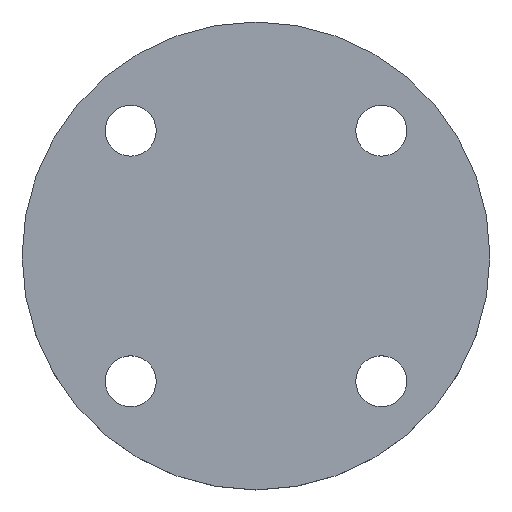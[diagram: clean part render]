
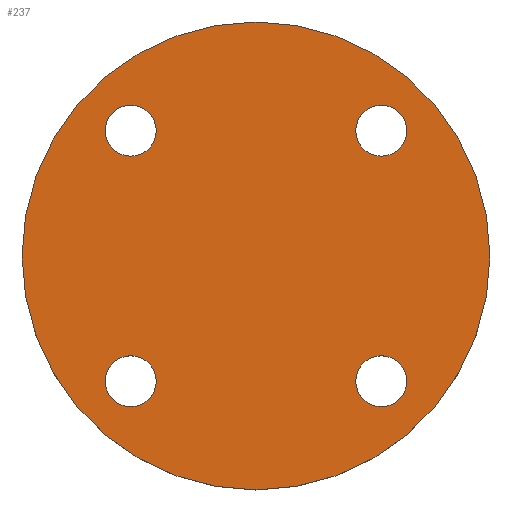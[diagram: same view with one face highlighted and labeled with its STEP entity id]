
A CAD part, top view. The second image highlights one B-rep face of the part: STEP entity #237.
In plain terms, the highlighted planar face has unit normal (0, 0, 1).
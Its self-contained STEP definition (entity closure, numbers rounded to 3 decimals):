
#4 = AXIS2_PLACEMENT_3D ( 'NONE', #511, #512, #513 ) ;
#9 = CIRCLE ( 'NONE', #442, 9. ) ;
#20 = AXIS2_PLACEMENT_3D ( 'NONE', #43, #119, #334 ) ;
#33 = CIRCLE ( 'NONE', #428, 9. ) ;
#41 = CIRCLE ( 'NONE', #60, 9. ) ;
#43 = CARTESIAN_POINT ( 'NONE',  ( 44.194, 44.194, 0. ) ) ;
#60 = AXIS2_PLACEMENT_3D ( 'NONE', #106, #183, #77 ) ;
#70 = DIRECTION ( 'NONE',  ( 0., 0., -1. ) ) ;
#77 = DIRECTION ( 'NONE',  ( -1., 0., 0. ) ) ;
#87 = CARTESIAN_POINT ( 'NONE',  ( -44.194, 44.194, 0. ) ) ;
#106 = CARTESIAN_POINT ( 'NONE',  ( -44.194, 44.194, 0. ) ) ;
#113 = CIRCLE ( 'NONE', #4, 9. ) ;
#115 = CIRCLE ( 'NONE', #20, 9. ) ;
#118 = AXIS2_PLACEMENT_3D ( 'NONE', #129, #130, #131 ) ;
#119 = DIRECTION ( 'NONE',  ( 0., 0., -1. ) ) ;
#122 = EDGE_CURVE ( 'NONE', #375, #262, #113, .T. ) ;
#126 = CARTESIAN_POINT ( 'NONE',  ( 0., 0., 0. ) ) ;
#127 = DIRECTION ( 'NONE',  ( 0., 0., 1. ) ) ;
#128 = DIRECTION ( 'NONE',  ( 1., 0., 0. ) ) ;
#129 = CARTESIAN_POINT ( 'NONE',  ( 44.194, -44.194, 0. ) ) ;
#130 = DIRECTION ( 'NONE',  ( 0., 0., -1. ) ) ;
#131 = DIRECTION ( 'NONE',  ( -1., 0., 0. ) ) ;
#143 = CARTESIAN_POINT ( 'NONE',  ( -44.194, -44.194, 0. ) ) ;
#150 = DIRECTION ( 'NONE',  ( 0., 0., -1. ) ) ;
#152 = DIRECTION ( 'NONE',  ( -1., 0., 0. ) ) ;
#159 = CIRCLE ( 'NONE', #118, 9. ) ;
#163 = DIRECTION ( 'NONE',  ( 0., 0., -1. ) ) ;
#165 = DIRECTION ( 'NONE',  ( -1., 0., 0. ) ) ;
#166 = DIRECTION ( 'NONE',  ( -1., 0., 0. ) ) ;
#169 = CARTESIAN_POINT ( 'NONE',  ( -44.194, -44.194, 0. ) ) ;
#176 = CIRCLE ( 'NONE', #203, 82.5 ) ;
#183 = DIRECTION ( 'NONE',  ( 0., 0., -1. ) ) ;
#185 = EDGE_CURVE ( 'NONE', #303, #217, #439, .T. ) ;
#186 = AXIS2_PLACEMENT_3D ( 'NONE', #126, #127, #128 ) ;
#190 = AXIS2_PLACEMENT_3D ( 'NONE', #143, #150, #152 ) ;
#203 = AXIS2_PLACEMENT_3D ( 'NONE', #619, #621, #622 ) ;
#217 = VERTEX_POINT ( 'NONE', #557 ) ;
#224 = VERTEX_POINT ( 'NONE', #559 ) ;
#237 = ADVANCED_FACE ( 'NONE', ( #563, #564, #565, #567, #568 ), #571, .T. ) ;
#261 = AXIS2_PLACEMENT_3D ( 'NONE', #572, #573, #574 ) ;
#262 = VERTEX_POINT ( 'NONE', #595 ) ;
#274 = CIRCLE ( 'NONE', #190, 9. ) ;
#285 = ORIENTED_EDGE ( 'NONE', *, *, #185, .T. ) ;
#286 = ORIENTED_EDGE ( 'NONE', *, *, #421, .T. ) ;
#288 = ORIENTED_EDGE ( 'NONE', *, *, #471, .T. ) ;
#289 = ORIENTED_EDGE ( 'NONE', *, *, #546, .T. ) ;
#290 = ORIENTED_EDGE ( 'NONE', *, *, #623, .T. ) ;
#293 = ORIENTED_EDGE ( 'NONE', *, *, #646, .T. ) ;
#294 = ORIENTED_EDGE ( 'NONE', *, *, #403, .T. ) ;
#296 = ORIENTED_EDGE ( 'NONE', *, *, #122, .T. ) ;
#297 = ORIENTED_EDGE ( 'NONE', *, *, #415, .T. ) ;
#298 = ORIENTED_EDGE ( 'NONE', *, *, #309, .T. ) ;
#300 = VERTEX_POINT ( 'NONE', #614 ) ;
#303 = VERTEX_POINT ( 'NONE', #615 ) ;
#304 = VERTEX_POINT ( 'NONE', #616 ) ;
#305 = VERTEX_POINT ( 'NONE', #617 ) ;
#308 = VERTEX_POINT ( 'NONE', #618 ) ;
#309 = EDGE_CURVE ( 'NONE', #300, #304, #176, .T. ) ;
#314 = EDGE_LOOP ( 'NONE', ( #285, #286 ) ) ;
#319 = VERTEX_POINT ( 'NONE', #625 ) ;
#334 = DIRECTION ( 'NONE',  ( -1., 0., 0. ) ) ;
#371 = CIRCLE ( 'NONE', #186, 82.5 ) ;
#375 = VERTEX_POINT ( 'NONE', #657 ) ;
#382 = EDGE_LOOP ( 'NONE', ( #288, #289 ) ) ;
#403 = EDGE_CURVE ( 'NONE', #262, #375, #115, .T. ) ;
#408 = EDGE_LOOP ( 'NONE', ( #297, #298 ) ) ;
#410 = EDGE_LOOP ( 'NONE', ( #294, #296 ) ) ;
#412 = EDGE_LOOP ( 'NONE', ( #290, #293 ) ) ;
#415 = EDGE_CURVE ( 'NONE', #304, #300, #371, .T. ) ;
#421 = EDGE_CURVE ( 'NONE', #217, #303, #159, .T. ) ;
#428 = AXIS2_PLACEMENT_3D ( 'NONE', #87, #163, #165 ) ;
#439 = CIRCLE ( 'NONE', #449, 9. ) ;
#442 = AXIS2_PLACEMENT_3D ( 'NONE', #169, #70, #166 ) ;
#449 = AXIS2_PLACEMENT_3D ( 'NONE', #535, #536, #537 ) ;
#471 = EDGE_CURVE ( 'NONE', #319, #305, #274, .T. ) ;
#511 = CARTESIAN_POINT ( 'NONE',  ( 44.194, 44.194, 0. ) ) ;
#512 = DIRECTION ( 'NONE',  ( 0., 0., -1. ) ) ;
#513 = DIRECTION ( 'NONE',  ( -1., 0., 0. ) ) ;
#535 = CARTESIAN_POINT ( 'NONE',  ( 44.194, -44.194, 0. ) ) ;
#536 = DIRECTION ( 'NONE',  ( 0., 0., -1. ) ) ;
#537 = DIRECTION ( 'NONE',  ( -1., 0., 0. ) ) ;
#546 = EDGE_CURVE ( 'NONE', #305, #319, #9, .T. ) ;
#557 = CARTESIAN_POINT ( 'NONE',  ( 35.194, -44.194, 0. ) ) ;
#559 = CARTESIAN_POINT ( 'NONE',  ( -53.194, 44.194, 0. ) ) ;
#563 = FACE_BOUND ( 'NONE', #314, .T. ) ;
#564 = FACE_BOUND ( 'NONE', #382, .T. ) ;
#565 = FACE_BOUND ( 'NONE', #412, .T. ) ;
#567 = FACE_BOUND ( 'NONE', #410, .T. ) ;
#568 = FACE_OUTER_BOUND ( 'NONE', #408, .T. ) ;
#571 = PLANE ( 'NONE',  #261 ) ;
#572 = CARTESIAN_POINT ( 'NONE',  ( 0., 0., 0. ) ) ;
#573 = DIRECTION ( 'NONE',  ( 0., 0., 1. ) ) ;
#574 = DIRECTION ( 'NONE',  ( 1., 0., 0. ) ) ;
#595 = CARTESIAN_POINT ( 'NONE',  ( 53.194, 44.194, 0. ) ) ;
#614 = CARTESIAN_POINT ( 'NONE',  ( -82.5, 0., 0. ) ) ;
#615 = CARTESIAN_POINT ( 'NONE',  ( 53.194, -44.194, 0. ) ) ;
#616 = CARTESIAN_POINT ( 'NONE',  ( 82.5, 0., 0. ) ) ;
#617 = CARTESIAN_POINT ( 'NONE',  ( -53.194, -44.194, 0. ) ) ;
#618 = CARTESIAN_POINT ( 'NONE',  ( -35.194, 44.194, 0. ) ) ;
#619 = CARTESIAN_POINT ( 'NONE',  ( 0., 0., 0. ) ) ;
#621 = DIRECTION ( 'NONE',  ( 0., 0., 1. ) ) ;
#622 = DIRECTION ( 'NONE',  ( 1., 0., 0. ) ) ;
#623 = EDGE_CURVE ( 'NONE', #308, #224, #41, .T. ) ;
#625 = CARTESIAN_POINT ( 'NONE',  ( -35.194, -44.194, 0. ) ) ;
#646 = EDGE_CURVE ( 'NONE', #224, #308, #33, .T. ) ;
#657 = CARTESIAN_POINT ( 'NONE',  ( 35.194, 44.194, 0. ) ) ;
